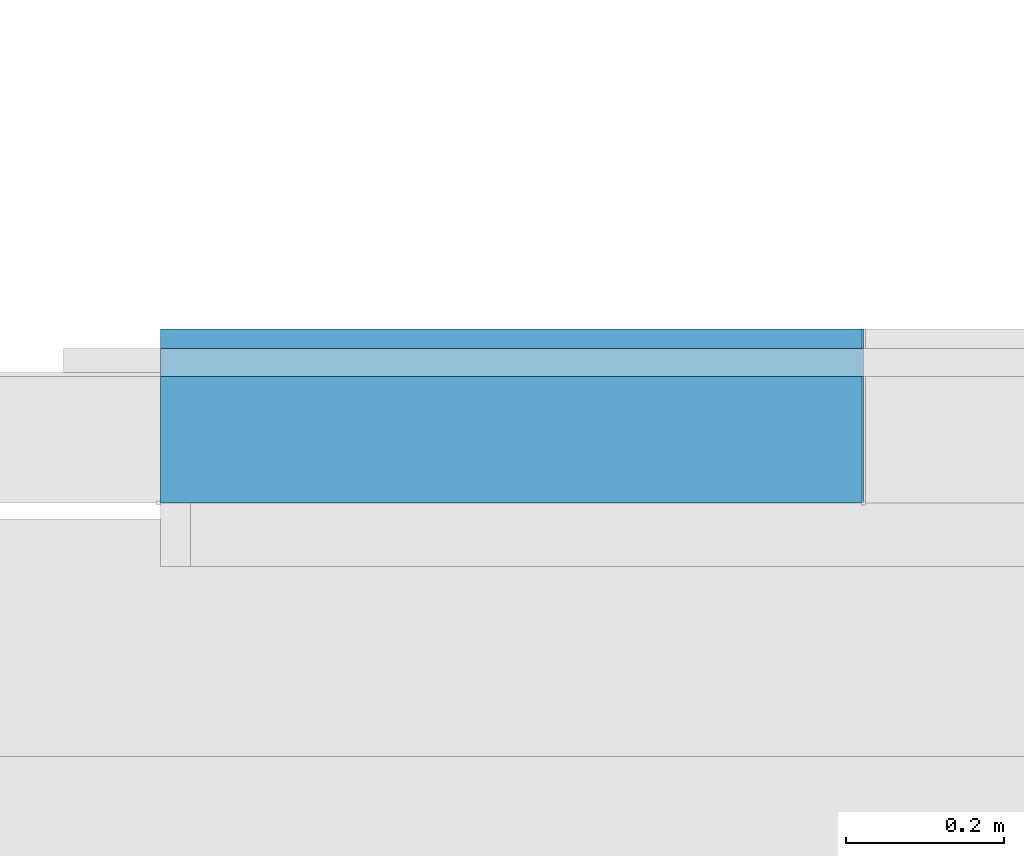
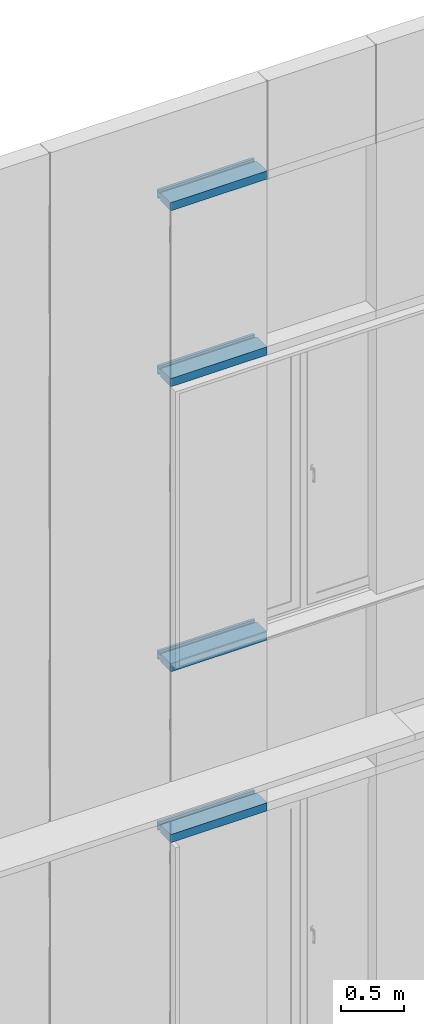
# One storey, part 196 of 302: 4 members, 1 element without a shape of its own.
"""IFC2X3 building model written with IfcOpenShell, lengths in metres."""

from ifc_helpers import new_model, entity, si_unit, converted_unit, derived_unit, direction, frame, origin, place, context, subcontext, project, spatial, polyline, outline, extrude, source, transform, mapped, material, type_object, type_shapes, element, aggregate, save


model = new_model("IFC2X3")

# Units and contexts
model_context = context("Model", 3, precision=1e-05, world=origin(), true_north=direction((6.12303176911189e-17, 1.0)))
body_context = subcontext(model_context, "Body", "Model", "MODEL_VIEW")
ifc_project = project(units=[si_unit("LENGTHUNIT", "METRE"), si_unit("AREAUNIT", "SQUARE_METRE"), si_unit("VOLUMEUNIT", "CUBIC_METRE"), converted_unit("PLANEANGLEUNIT", "DEGREE", entity("IfcRatioMeasure", 0.0174532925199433), si_unit("PLANEANGLEUNIT", "RADIAN"), dimensions=[0, 0, 0, 0, 0, 0, 0]), si_unit("MASSUNIT", "GRAM", prefix="KILO"), derived_unit("MASSDENSITYUNIT", [(si_unit("MASSUNIT", "GRAM", prefix="KILO"), 1), (si_unit("LENGTHUNIT", "METRE"), -3)]), derived_unit("MOMENTOFINERTIAUNIT", [(si_unit("LENGTHUNIT", "METRE"), 4)]), si_unit("TIMEUNIT", "SECOND"), si_unit("FREQUENCYUNIT", "HERTZ"), si_unit("THERMODYNAMICTEMPERATUREUNIT", "DEGREE_CELSIUS"), derived_unit("THERMALTRANSMITTANCEUNIT", [(si_unit("MASSUNIT", "GRAM", prefix="KILO"), 1), (si_unit("THERMODYNAMICTEMPERATUREUNIT", "KELVIN"), -1), (si_unit("TIMEUNIT", "SECOND"), -3)]), derived_unit("VOLUMETRICFLOWRATEUNIT", [(si_unit("LENGTHUNIT", "METRE"), 3), (si_unit("TIMEUNIT", "SECOND"), -1)]), si_unit("ELECTRICCURRENTUNIT", "AMPERE"), si_unit("ELECTRICVOLTAGEUNIT", "VOLT"), si_unit("POWERUNIT", "WATT"), si_unit("FORCEUNIT", "NEWTON", prefix="KILO"), si_unit("ILLUMINANCEUNIT", "LUX"), si_unit("LUMINOUSFLUXUNIT", "LUMEN"), si_unit("LUMINOUSINTENSITYUNIT", "CANDELA"), derived_unit("USERDEFINED", [(si_unit("MASSUNIT", "GRAM", prefix="KILO"), -1), (si_unit("LENGTHUNIT", "METRE"), -2), (si_unit("TIMEUNIT", "SECOND"), 3), (si_unit("LUMINOUSFLUXUNIT", "LUMEN"), 1)]), derived_unit("LINEARVELOCITYUNIT", [(si_unit("LENGTHUNIT", "METRE"), 1), (si_unit("TIMEUNIT", "SECOND"), -1)]), si_unit("PRESSUREUNIT", "PASCAL"), derived_unit("USERDEFINED", [(si_unit("LENGTHUNIT", "METRE"), -2), (si_unit("MASSUNIT", "GRAM", prefix="KILO"), 1), (si_unit("TIMEUNIT", "SECOND"), -2)]), derived_unit("LINEARFORCEUNIT", [(si_unit("MASSUNIT", "GRAM", prefix="KILO"), 1), (si_unit("LENGTHUNIT", "METRE"), 1), (si_unit("TIMEUNIT", "SECOND"), -2), (si_unit("LENGTHUNIT", "METRE"), -1)]), derived_unit("PLANARFORCEUNIT", [(si_unit("MASSUNIT", "GRAM", prefix="KILO"), 1), (si_unit("LENGTHUNIT", "METRE"), 1), (si_unit("TIMEUNIT", "SECOND"), -2), (si_unit("LENGTHUNIT", "METRE"), -2)])], contexts=[model_context])

# Site, building, storey
site_placement = place(None, origin())
site = spatial("IfcSite", under=ifc_project, at=site_placement, Name="Default", CompositionType="ELEMENT")
building_placement = place(site_placement, origin())
building = spatial("IfcBuilding", under=site, at=building_placement, CompositionType="ELEMENT")
storey_placement = place(building_placement, frame((0.0, 0.0, -1.3)))
storey = spatial("IfcBuildingStorey", under=building, at=storey_placement, Name="00_EG", CompositionType="ELEMENT", Elevation=-1.3)

# Curtain wall, members
curtain_wall_type = type_object("IfcCurtainWallType", Name="Fassade:Curtain Wall 1", PredefinedType="NOTDEFINED")
curtain_wall_placement = place(storey_placement, frame((0.0, 0.0, 1.3)))
curtain_wall = element("IfcCurtainWall", 1, at=curtain_wall_placement, inside=storey, type_object=curtain_wall_type, Name="Fassade:Curtain Wall 1", ObjectType="Fassade:Curtain Wall 1")
ifc_material = material(Name="Prepainted_Steel-ArcelorMittal_Construction_HAIRULTRA-35-CORAL-4309-[RAL_3000]")
member_type_1 = type_object("IfcMemberType", Name="Rectangular Mullion:Fassadenrahmen Typ 1", PredefinedType="MULLION", material=ifc_material)
shared_shape_1 = source(origin(), body_context, "Body", "SweptSolid", [
    extrude(outline(polyline([(-0.065, -0.04), (-0.04, -0.04), (-0.04, -0.02), (-0.00499999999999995, -0.02), (-0.00499999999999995, -0.04), (0.155, -0.04), (0.155, 0.04), (-0.00499999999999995, 0.04), (-0.00499999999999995, 0.02), (-0.04, 0.02), (-0.04, 0.04), (-0.065, 0.04), (-0.065, -0.04)])), frame((0.0, 0.155, -0.884999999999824), z_axis=(0.0, 0.0, 1.0), x_axis=(0.0, -1.0, 0.0)), (0.0, 0.0, 1.0), 0.884999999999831),
])
type_shapes(member_type_1, [shared_shape_1])
member_1_placement = place(storey_placement, frame((-222.497611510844, 45.578088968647, 10.2096475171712), z_axis=(-1.0, 0.0, 0.0), x_axis=(0.0, 0.0, 1.0)))
member_1 = element("IfcMember", 2, at=member_1_placement, type_object=member_type_1, material=ifc_material, Name="Rectangular Mullion:Fassadenrahmen Typ 1", ObjectType="Rectangular Mullion:Fassadenrahmen Typ 1", context=body_context, shape_type="MappedRepresentation", body=[
    mapped(shared_shape_1, transform((0.0, 0.0, 0.0), scale=1.0)),
])
member_type_2 = type_object("IfcMemberType", Name="Rectangular Mullion:Fassadenrahmen Typ 1", PredefinedType="MULLION", material=ifc_material)
shared_shape_2 = source(origin(), body_context, "Body", "SweptSolid", [
    extrude(outline(polyline([(-0.065, -0.04), (-0.04, -0.04), (-0.04, -0.02), (-0.00499999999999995, -0.02), (-0.00499999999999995, -0.04), (0.155, -0.04), (0.155, 0.04), (-0.00499999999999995, 0.04), (-0.00499999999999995, 0.02), (-0.04, 0.02), (-0.04, 0.04), (-0.065, 0.04), (-0.065, -0.04)])), frame((0.0, 0.155, -0.887499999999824), z_axis=(0.0, 0.0, 1.0), x_axis=(0.0, -1.0, 0.0)), (0.0, 0.0, 1.0), 0.887499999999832),
])
type_shapes(member_type_2, [shared_shape_2])
member_2_placement = place(storey_placement, frame((-222.497611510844, 45.578088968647, 4.06999999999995), z_axis=(-1.0, 0.0, 0.0), x_axis=(0.0, 0.0, 1.0)))
member_2 = element("IfcMember", 3, at=member_2_placement, type_object=member_type_2, material=ifc_material, Name="Rectangular Mullion:Fassadenrahmen Typ 1", ObjectType="Rectangular Mullion:Fassadenrahmen Typ 1", context=body_context, shape_type="MappedRepresentation", body=[
    mapped(shared_shape_2, transform((0.0, 0.0, 0.0), scale=1.0)),
])
member_3_placement = place(storey_placement, frame((-222.497611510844, 45.578088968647, 5.73), z_axis=(-1.0, 0.0, 0.0), x_axis=(0.0, 0.0, 1.0)))
member_3 = element("IfcMember", 4, at=member_3_placement, type_object=member_type_2, material=ifc_material, Name="Rectangular Mullion:Fassadenrahmen Typ 1", ObjectType="Rectangular Mullion:Fassadenrahmen Typ 1", context=body_context, shape_type="MappedRepresentation", body=[
    mapped(shared_shape_2, transform((0.0, 0.0, 0.0), scale=1.0)),
])
member_4_placement = place(storey_placement, frame((-222.497611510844, 45.578088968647, 8.49999999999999), z_axis=(-1.0, 0.0, 0.0), x_axis=(0.0, 0.0, 1.0)))
member_4 = element("IfcMember", 5, at=member_4_placement, type_object=member_type_2, material=ifc_material, Name="Rectangular Mullion:Fassadenrahmen Typ 1", ObjectType="Rectangular Mullion:Fassadenrahmen Typ 1", context=body_context, shape_type="MappedRepresentation", body=[
    mapped(shared_shape_2, transform((0.0, 0.0, 0.0), scale=1.0)),
])
aggregate(curtain_wall, [member_1, member_2, member_3, member_4])

save(model, "model.ifc")
